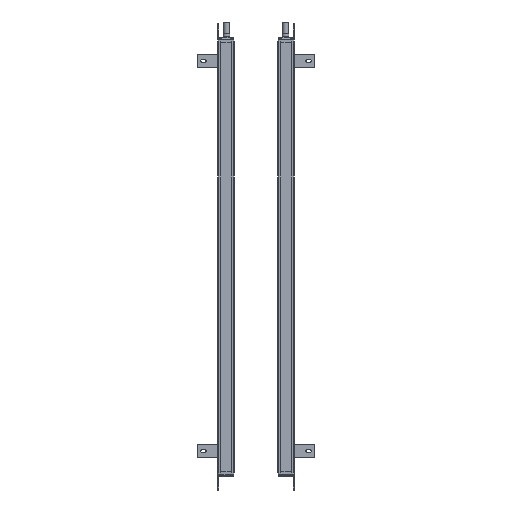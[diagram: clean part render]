
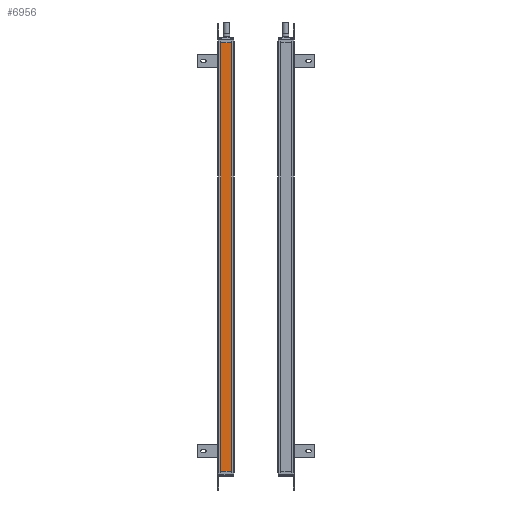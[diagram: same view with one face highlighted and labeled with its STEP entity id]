
A CAD part, left-side view. The second image highlights one B-rep face of the part: STEP entity #6956.
In plain terms, the highlighted planar face has unit normal (-1, 0, 0).
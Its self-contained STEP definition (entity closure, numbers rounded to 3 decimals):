
#953=FACE_OUTER_BOUND('',#9034,.T.);
#2188=LINE('',#33710,#4326);
#2290=LINE('',#34050,#4428);
#2291=LINE('',#34052,#4429);
#2292=LINE('',#34054,#4430);
#4326=VECTOR('',#26897,1.);
#4428=VECTOR('',#27185,1.);
#4429=VECTOR('',#27188,1.);
#4430=VECTOR('',#27189,1.);
#6178=PLANE('',#23723);
#6956=ADVANCED_FACE('',(#953),#6178,.T.);
#9034=EDGE_LOOP('',(#11681,#11682,#11683,#11684));
#11681=ORIENTED_EDGE('',*,*,#19828,.F.);
#11682=ORIENTED_EDGE('',*,*,#19829,.T.);
#11683=ORIENTED_EDGE('',*,*,#19830,.T.);
#11684=ORIENTED_EDGE('',*,*,#19658,.F.);
#17203=VERTEX_POINT('',#33709);
#17204=VERTEX_POINT('',#33711);
#17348=VERTEX_POINT('',#34049);
#17349=VERTEX_POINT('',#34053);
#19658=EDGE_CURVE('',#17203,#17204,#2188,.T.);
#19828=EDGE_CURVE('',#17348,#17203,#2290,.T.);
#19829=EDGE_CURVE('',#17348,#17349,#2291,.T.);
#19830=EDGE_CURVE('',#17349,#17204,#2292,.T.);
#23723=AXIS2_PLACEMENT_3D('',#34055,#27190,#27191);
#26897=DIRECTION('',(0.,-1.,0.));
#27185=DIRECTION('',(0.,0.,1.));
#27188=DIRECTION('',(0.,-1.,0.));
#27189=DIRECTION('',(0.,0.,1.));
#27190=DIRECTION('',(-1.,0.,0.));
#27191=DIRECTION('',(0.,1.,0.));
#33709=CARTESIAN_POINT('',(233.846,104.141,31.645));
#33710=CARTESIAN_POINT('',(233.846,81.141,31.645));
#33711=CARTESIAN_POINT('',(233.846,81.141,31.645));
#34049=CARTESIAN_POINT('',(233.846,104.141,-913.355));
#34050=CARTESIAN_POINT('',(233.846,104.141,-155.355));
#34052=CARTESIAN_POINT('',(233.846,81.141,-913.355));
#34053=CARTESIAN_POINT('',(233.846,81.141,-913.355));
#34054=CARTESIAN_POINT('',(233.846,81.141,-155.355));
#34055=CARTESIAN_POINT('',(233.846,81.141,-50.355));
